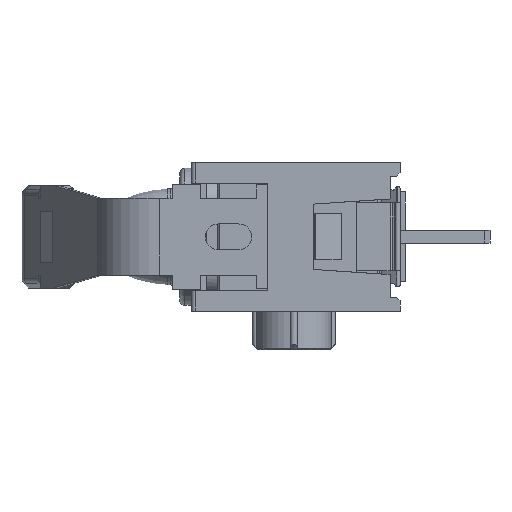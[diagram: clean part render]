
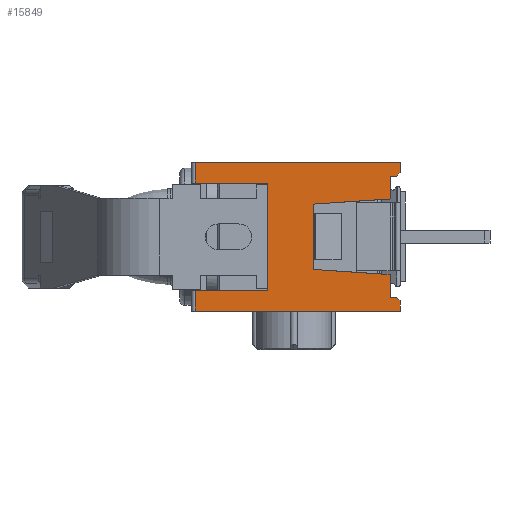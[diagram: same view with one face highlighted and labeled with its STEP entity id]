
A CAD part, left-side view. The second image highlights one B-rep face of the part: STEP entity #15849.
In plain terms, the highlighted planar face has unit normal (-1, 0, 0).
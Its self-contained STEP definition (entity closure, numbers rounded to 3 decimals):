
#5785 = DIRECTION ( 'NONE',  ( 0., -1., 0. ) ) ;
#5786 = VECTOR ( 'NONE', #5785, 1000. ) ;
#5787 = CARTESIAN_POINT ( 'NONE',  ( -6.5, 8.355, 2.9 ) ) ;
#5788 = LINE ( 'NONE', #5787, #5786 ) ;
#6210 = CARTESIAN_POINT ( 'NONE',  ( -6.5, 3.6, 1.275 ) ) ;
#6393 = CARTESIAN_POINT ( 'NONE',  ( -6.5, 0.6, 1.475 ) ) ;
#6394 = DIRECTION ( 'NONE',  ( 0., -0.998, 0.067 ) ) ;
#6395 = VECTOR ( 'NONE', #6394, 1000. ) ;
#6396 = CARTESIAN_POINT ( 'NONE',  ( -6.5, 3.6, 1.275 ) ) ;
#6397 = LINE ( 'NONE', #6396, #6395 ) ;
#6594 = CARTESIAN_POINT ( 'NONE',  ( -6.5, 3.6, -1.275 ) ) ;
#6635 = CARTESIAN_POINT ( 'NONE',  ( -6.5, 0.6, -1.475 ) ) ;
#6636 = DIRECTION ( 'NONE',  ( 0., 0., 1. ) ) ;
#6637 = VECTOR ( 'NONE', #6636, 1000. ) ;
#6638 = CARTESIAN_POINT ( 'NONE',  ( -6.5, 0.6, 1.475 ) ) ;
#6639 = LINE ( 'NONE', #6638, #6637 ) ;
#6669 = DIRECTION ( 'NONE',  ( 0., 0., 1. ) ) ;
#6670 = VECTOR ( 'NONE', #6669, 1000. ) ;
#6671 = CARTESIAN_POINT ( 'NONE',  ( -6.5, 3.6, -2.352 ) ) ;
#6672 = LINE ( 'NONE', #6671, #6670 ) ;
#6676 = DIRECTION ( 'NONE',  ( 0., 0., -1. ) ) ;
#6677 = CARTESIAN_POINT ( 'NONE',  ( -6.5, 8.205, 2.9 ) ) ;
#6683 = LINE ( 'NONE', #6677, #6732 ) ;
#6732 = VECTOR ( 'NONE', #6676, 1000. ) ;
#6733 = LINE ( 'NONE', #6760, #6759 ) ;
#6734 = DIRECTION ( 'NONE',  ( 0., 0.998, 0.067 ) ) ;
#6735 = VECTOR ( 'NONE', #6734, 1000. ) ;
#6736 = CARTESIAN_POINT ( 'NONE',  ( -6.5, 0.6, -1.475 ) ) ;
#6737 = LINE ( 'NONE', #6736, #6735 ) ;
#6758 = DIRECTION ( 'NONE',  ( 0., 0., 1. ) ) ;
#6759 = VECTOR ( 'NONE', #6758, 1000. ) ;
#6760 = CARTESIAN_POINT ( 'NONE',  ( -6.5, 0.6, -2.352 ) ) ;
#9262 = DIRECTION ( 'NONE',  ( 0., 1., 0. ) ) ;
#9263 = VECTOR ( 'NONE', #9262, 1000. ) ;
#9264 = CARTESIAN_POINT ( 'NONE',  ( -6.5, 8.355, 2.095 ) ) ;
#9265 = LINE ( 'NONE', #9264, #9263 ) ;
#9291 = CARTESIAN_POINT ( 'NONE',  ( -6.5, 8.205, -2.095 ) ) ;
#9293 = DIRECTION ( 'NONE',  ( 0., -1., 0. ) ) ;
#9294 = VECTOR ( 'NONE', #9293, 1000. ) ;
#9295 = CARTESIAN_POINT ( 'NONE',  ( -6.5, 8.355, -2.095 ) ) ;
#9296 = LINE ( 'NONE', #9295, #9294 ) ;
#9316 = CARTESIAN_POINT ( 'NONE',  ( -6.5, 5.39, -2.095 ) ) ;
#9335 = DIRECTION ( 'NONE',  ( 0., 0., -1. ) ) ;
#9336 = DIRECTION ( 'NONE',  ( 1., 0., 0. ) ) ;
#9337 = CARTESIAN_POINT ( 'NONE',  ( -6.5, 8.355, 2.9 ) ) ;
#9338 = AXIS2_PLACEMENT_3D ( 'NONE', #9337, #9336, #9335 ) ;
#9340 = PLANE ( 'NONE',  #9338 ) ;
#9341 = CARTESIAN_POINT ( 'NONE',  ( -6.5, 8.205, 2.095 ) ) ;
#9353 = CARTESIAN_POINT ( 'NONE',  ( -6.5, 5.39, 2.095 ) ) ;
#9403 = CARTESIAN_POINT ( 'NONE',  ( -6.5, 8.205, 2.9 ) ) ;
#9404 = DIRECTION ( 'NONE',  ( 0., 0., -1. ) ) ;
#9405 = VECTOR ( 'NONE', #9404, 1000. ) ;
#9406 = CARTESIAN_POINT ( 'NONE',  ( -6.5, 8.205, 2.9 ) ) ;
#9407 = LINE ( 'NONE', #9406, #9405 ) ;
#9409 = DIRECTION ( 'NONE',  ( 0., 0., -1. ) ) ;
#9410 = VECTOR ( 'NONE', #9409, 1000. ) ;
#9411 = CARTESIAN_POINT ( 'NONE',  ( -6.5, 5.39, -2.095 ) ) ;
#9412 = LINE ( 'NONE', #9411, #9410 ) ;
#9447 = FACE_OUTER_BOUND ( 'NONE', #15837, .T. ) ;
#12386 = CARTESIAN_POINT ( 'NONE',  ( -6.5, 0.35, -2.352 ) ) ;
#12387 = DIRECTION ( 'NONE',  ( 0., 1., 0. ) ) ;
#12388 = VECTOR ( 'NONE', #12387, 1000. ) ;
#12389 = CARTESIAN_POINT ( 'NONE',  ( -6.5, 7.77, -2.353 ) ) ;
#12390 = LINE ( 'NONE', #12389, #12388 ) ;
#12393 = CARTESIAN_POINT ( 'NONE',  ( -6.5, 0.6, -2.352 ) ) ;
#13110 = CARTESIAN_POINT ( 'NONE',  ( -6.5, 0.6, 2.352 ) ) ;
#13191 = CARTESIAN_POINT ( 'NONE',  ( -6.5, 8.205, -2.9 ) ) ;
#13192 = DIRECTION ( 'NONE',  ( 0., -1., 0. ) ) ;
#13193 = VECTOR ( 'NONE', #13192, 1000. ) ;
#13194 = CARTESIAN_POINT ( 'NONE',  ( -6.5, 8.355, -2.9 ) ) ;
#13195 = LINE ( 'NONE', #13194, #13193 ) ;
#13196 = CARTESIAN_POINT ( 'NONE',  ( -6.5, 0.2, -2.9 ) ) ;
#13569 = CARTESIAN_POINT ( 'NONE',  ( -6.5, 0.35, 2.352 ) ) ;
#13570 = DIRECTION ( 'NONE',  ( 0., -1., 0. ) ) ;
#13571 = VECTOR ( 'NONE', #13570, 1000. ) ;
#13572 = CARTESIAN_POINT ( 'NONE',  ( -6.5, 7.77, 2.353 ) ) ;
#13573 = LINE ( 'NONE', #13572, #13571 ) ;
#13652 = DIRECTION ( 'NONE',  ( 0., 0.707, 0.707 ) ) ;
#13653 = VECTOR ( 'NONE', #13652, 1000. ) ;
#13654 = CARTESIAN_POINT ( 'NONE',  ( -6.5, 0.2, -2.502 ) ) ;
#13655 = LINE ( 'NONE', #13654, #13653 ) ;
#13681 = DIRECTION ( 'NONE',  ( 0., 0., 1. ) ) ;
#13682 = VECTOR ( 'NONE', #13681, 1000. ) ;
#13683 = CARTESIAN_POINT ( 'NONE',  ( -6.5, 0.2, -2.502 ) ) ;
#13684 = LINE ( 'NONE', #13683, #13682 ) ;
#13686 = CARTESIAN_POINT ( 'NONE',  ( -6.5, 0.2, -2.502 ) ) ;
#13782 = DIRECTION ( 'NONE',  ( 0., 0., 1. ) ) ;
#13783 = VECTOR ( 'NONE', #13782, 1000. ) ;
#13784 = CARTESIAN_POINT ( 'NONE',  ( -6.5, 0.2, 2.502 ) ) ;
#13785 = LINE ( 'NONE', #13784, #13783 ) ;
#13786 = CARTESIAN_POINT ( 'NONE',  ( -6.5, 0.2, 2.9 ) ) ;
#13832 = DIRECTION ( 'NONE',  ( 0., -0.707, 0.707 ) ) ;
#13833 = VECTOR ( 'NONE', #13832, 1000. ) ;
#13834 = CARTESIAN_POINT ( 'NONE',  ( -6.5, 0.2, 2.502 ) ) ;
#13835 = LINE ( 'NONE', #13834, #13833 ) ;
#13837 = CARTESIAN_POINT ( 'NONE',  ( -6.5, 0.2, 2.502 ) ) ;
#15785 = VERTEX_POINT ( 'NONE', #9341 ) ;
#15787 = ORIENTED_EDGE ( 'NONE', *, *, #15789, .F. ) ;
#15789 = EDGE_CURVE ( 'NONE', #15791, #15785, #9265, .T. ) ;
#15791 = VERTEX_POINT ( 'NONE', #9353 ) ;
#15806 = ORIENTED_EDGE ( 'NONE', *, *, #15809, .F. ) ;
#15809 = EDGE_CURVE ( 'NONE', #15811, #15830, #9296, .T. ) ;
#15811 = VERTEX_POINT ( 'NONE', #9291 ) ;
#15830 = VERTEX_POINT ( 'NONE', #9316 ) ;
#15832 = ORIENTED_EDGE ( 'NONE', *, *, #15834, .T. ) ;
#15834 = EDGE_CURVE ( 'NONE', #15791, #15830, #9412, .T. ) ;
#15837 = EDGE_LOOP ( 'NONE', ( #15871, #15838, #15787, #15832, #15806, #15841, #16171, #16125, #16127, #16164, #16055, #16121, #16057, #16189, #16036, #16165, #16118, #16122 ) ) ;
#15838 = ORIENTED_EDGE ( 'NONE', *, *, #15839, .T. ) ;
#15839 = EDGE_CURVE ( 'NONE', #15840, #15785, #9407, .T. ) ;
#15840 = VERTEX_POINT ( 'NONE', #9403 ) ;
#15841 = ORIENTED_EDGE ( 'NONE', *, *, #16191, .T. ) ;
#15849 = ADVANCED_FACE ( 'NONE', ( #9447 ), #9340, .F. ) ;
#15871 = ORIENTED_EDGE ( 'NONE', *, *, #15874, .F. ) ;
#15874 = EDGE_CURVE ( 'NONE', #15840, #19837, #5788, .T. ) ;
#16034 = EDGE_CURVE ( 'NONE', #16053, #16035, #6397, .T. ) ;
#16035 = VERTEX_POINT ( 'NONE', #6393 ) ;
#16036 = ORIENTED_EDGE ( 'NONE', *, *, #16176, .T. ) ;
#16053 = VERTEX_POINT ( 'NONE', #6210 ) ;
#16055 = ORIENTED_EDGE ( 'NONE', *, *, #16186, .T. ) ;
#16057 = ORIENTED_EDGE ( 'NONE', *, *, #16181, .T. ) ;
#16118 = ORIENTED_EDGE ( 'NONE', *, *, #19828, .T. ) ;
#16121 = ORIENTED_EDGE ( 'NONE', *, *, #16185, .T. ) ;
#16122 = ORIENTED_EDGE ( 'NONE', *, *, #19839, .T. ) ;
#16125 = ORIENTED_EDGE ( 'NONE', *, *, #19732, .T. ) ;
#16127 = ORIENTED_EDGE ( 'NONE', *, *, #19741, .T. ) ;
#16164 = ORIENTED_EDGE ( 'NONE', *, *, #19210, .T. ) ;
#16165 = ORIENTED_EDGE ( 'NONE', *, *, #19579, .T. ) ;
#16169 = VERTEX_POINT ( 'NONE', #6594 ) ;
#16171 = ORIENTED_EDGE ( 'NONE', *, *, #19536, .T. ) ;
#16176 = EDGE_CURVE ( 'NONE', #16035, #19563, #6639, .T. ) ;
#16177 = VERTEX_POINT ( 'NONE', #6635 ) ;
#16181 = EDGE_CURVE ( 'NONE', #16169, #16053, #6672, .T. ) ;
#16185 = EDGE_CURVE ( 'NONE', #16177, #16169, #6737, .T. ) ;
#16186 = EDGE_CURVE ( 'NONE', #19208, #16177, #6733, .T. ) ;
#16189 = ORIENTED_EDGE ( 'NONE', *, *, #16034, .T. ) ;
#16191 = EDGE_CURVE ( 'NONE', #15811, #19537, #6683, .T. ) ;
#19208 = VERTEX_POINT ( 'NONE', #12393 ) ;
#19210 = EDGE_CURVE ( 'NONE', #19211, #19208, #12390, .T. ) ;
#19211 = VERTEX_POINT ( 'NONE', #12386 ) ;
#19534 = VERTEX_POINT ( 'NONE', #13196 ) ;
#19536 = EDGE_CURVE ( 'NONE', #19537, #19534, #13195, .T. ) ;
#19537 = VERTEX_POINT ( 'NONE', #13191 ) ;
#19563 = VERTEX_POINT ( 'NONE', #13110 ) ;
#19579 = EDGE_CURVE ( 'NONE', #19563, #19580, #13573, .T. ) ;
#19580 = VERTEX_POINT ( 'NONE', #13569 ) ;
#19730 = VERTEX_POINT ( 'NONE', #13686 ) ;
#19732 = EDGE_CURVE ( 'NONE', #19534, #19730, #13684, .T. ) ;
#19741 = EDGE_CURVE ( 'NONE', #19730, #19211, #13655, .T. ) ;
#19826 = VERTEX_POINT ( 'NONE', #13837 ) ;
#19828 = EDGE_CURVE ( 'NONE', #19580, #19826, #13835, .T. ) ;
#19837 = VERTEX_POINT ( 'NONE', #13786 ) ;
#19839 = EDGE_CURVE ( 'NONE', #19826, #19837, #13785, .T. ) ;
